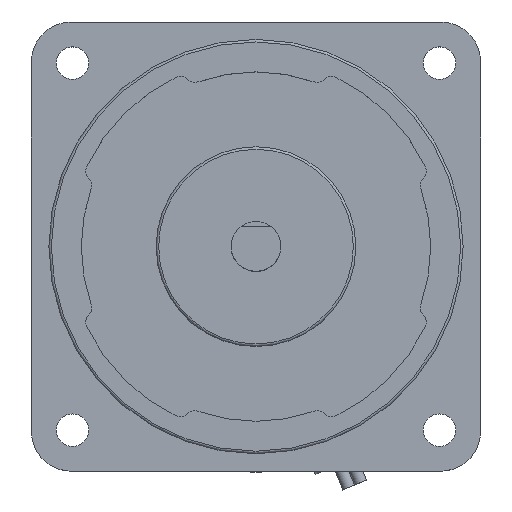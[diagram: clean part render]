
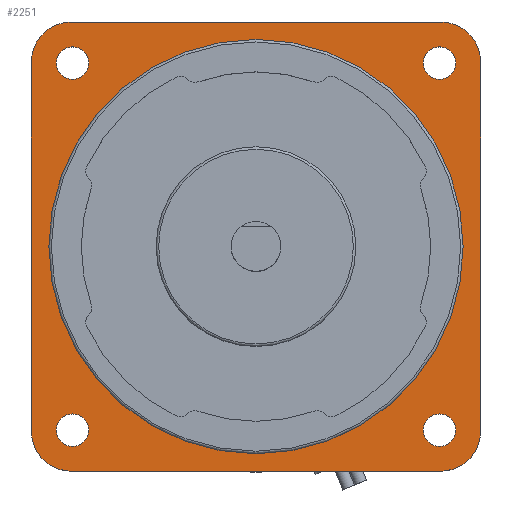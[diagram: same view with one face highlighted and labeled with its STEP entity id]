
A CAD part, top view. The second image highlights one B-rep face of the part: STEP entity #2251.
In plain terms, the highlighted planar face has unit normal (0, 0, 1).
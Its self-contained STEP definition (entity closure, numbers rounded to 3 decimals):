
#1013=CARTESIAN_POINT('',(41.5,0.,105.));
#1014=VERTEX_POINT('',#1013);
#1015=CARTESIAN_POINT('',(0.0,0.0,105.));
#1016=DIRECTION('',(0.0,0.0,-1.0));
#1017=DIRECTION('',(-1.0,0.0,0.0));
#1018=AXIS2_PLACEMENT_3D('',#1015,#1016,#1017);
#1019=CIRCLE('',#1018,41.5);
#1020=EDGE_CURVE('',#1014,#1014,#1019,.T.);
#1950=CARTESIAN_POINT('',(45.,37.0,105.));
#1951=VERTEX_POINT('',#1950);
#1952=CARTESIAN_POINT('',(45.,-37.0,105.));
#1953=VERTEX_POINT('',#1952);
#1954=CARTESIAN_POINT('',(45.,37.0,105.0));
#1955=DIRECTION('',(0.0,-1.0,0.0));
#1956=VECTOR('',#1955,74.0);
#1957=LINE('',#1954,#1956);
#1958=EDGE_CURVE('',#1951,#1953,#1957,.T.);
#1981=CARTESIAN_POINT('',(37.,-45.0,105.));
#1982=VERTEX_POINT('',#1981);
#1983=CARTESIAN_POINT('',(37.,-37.0,105.0));
#1984=DIRECTION('',(0.0,0.0,-1.0));
#1985=DIRECTION('',(0.0,1.0,0.0));
#1986=AXIS2_PLACEMENT_3D('',#1983,#1984,#1985);
#1987=CIRCLE('',#1986,8.);
#1988=EDGE_CURVE('',#1953,#1982,#1987,.T.);
#2006=CARTESIAN_POINT('',(-37.,-45.0,105.));
#2007=VERTEX_POINT('',#2006);
#2008=CARTESIAN_POINT('',(37.,-45.0,105.0));
#2009=DIRECTION('',(-1.0,0.0,0.0));
#2010=VECTOR('',#2009,74.);
#2011=LINE('',#2008,#2010);
#2012=EDGE_CURVE('',#1982,#2007,#2011,.T.);
#2030=CARTESIAN_POINT('',(-45.,-37.0,105.));
#2031=VERTEX_POINT('',#2030);
#2032=CARTESIAN_POINT('',(-37.,-37.0,105.0));
#2033=DIRECTION('',(0.0,0.0,-1.0));
#2034=DIRECTION('',(1.0,0.0,0.0));
#2035=AXIS2_PLACEMENT_3D('',#2032,#2033,#2034);
#2036=CIRCLE('',#2035,8.);
#2037=EDGE_CURVE('',#2007,#2031,#2036,.T.);
#2055=CARTESIAN_POINT('',(-45.,37.0,105.));
#2056=VERTEX_POINT('',#2055);
#2057=CARTESIAN_POINT('',(-45.,-37.0,105.0));
#2058=DIRECTION('',(0.0,1.0,0.0));
#2059=VECTOR('',#2058,74.0);
#2060=LINE('',#2057,#2059);
#2061=EDGE_CURVE('',#2031,#2056,#2060,.T.);
#2079=CARTESIAN_POINT('',(-37.,45.0,105.));
#2080=VERTEX_POINT('',#2079);
#2081=CARTESIAN_POINT('',(-37.,37.0,105.0));
#2082=DIRECTION('',(0.0,0.0,-1.0));
#2083=DIRECTION('',(0.0,-1.0,0.0));
#2084=AXIS2_PLACEMENT_3D('',#2081,#2082,#2083);
#2085=CIRCLE('',#2084,8.);
#2086=EDGE_CURVE('',#2056,#2080,#2085,.T.);
#2106=CARTESIAN_POINT('',(37.,45.0,105.));
#2107=VERTEX_POINT('',#2106);
#2108=CARTESIAN_POINT('',(-37.,45.0,105.0));
#2109=DIRECTION('',(1.0,0.0,0.0));
#2110=VECTOR('',#2109,74.);
#2111=LINE('',#2108,#2110);
#2112=EDGE_CURVE('',#2080,#2107,#2111,.T.);
#2128=CARTESIAN_POINT('',(37.,37.0,105.0));
#2129=DIRECTION('',(0.0,0.0,-1.0));
#2130=DIRECTION('',(-1.0,0.0,0.0));
#2131=AXIS2_PLACEMENT_3D('',#2128,#2129,#2130);
#2132=CIRCLE('',#2131,8.);
#2133=EDGE_CURVE('',#2107,#1951,#2132,.T.);
#2149=CARTESIAN_POINT('',(40.02,36.77,105.));
#2150=VERTEX_POINT('',#2149);
#2151=CARTESIAN_POINT('',(36.77,36.77,105.));
#2152=DIRECTION('',(0.0,0.0,-1.0));
#2153=DIRECTION('',(-1.0,0.0,0.0));
#2154=AXIS2_PLACEMENT_3D('',#2151,#2152,#2153);
#2155=CIRCLE('',#2154,3.25);
#2156=EDGE_CURVE('',#2150,#2150,#2155,.T.);
#2169=CARTESIAN_POINT('',(40.02,-36.77,105.));
#2170=VERTEX_POINT('',#2169);
#2171=CARTESIAN_POINT('',(36.77,-36.77,105.));
#2172=DIRECTION('',(0.0,0.0,-1.0));
#2173=DIRECTION('',(-1.0,0.0,0.0));
#2174=AXIS2_PLACEMENT_3D('',#2171,#2172,#2173);
#2175=CIRCLE('',#2174,3.25);
#2176=EDGE_CURVE('',#2170,#2170,#2175,.T.);
#2189=CARTESIAN_POINT('',(-33.52,-36.77,105.));
#2190=VERTEX_POINT('',#2189);
#2191=CARTESIAN_POINT('',(-36.77,-36.77,105.));
#2192=DIRECTION('',(0.0,0.0,-1.0));
#2193=DIRECTION('',(-1.0,0.0,0.0));
#2194=AXIS2_PLACEMENT_3D('',#2191,#2192,#2193);
#2195=CIRCLE('',#2194,3.25);
#2196=EDGE_CURVE('',#2190,#2190,#2195,.T.);
#2209=CARTESIAN_POINT('',(-33.52,36.77,105.));
#2210=VERTEX_POINT('',#2209);
#2211=CARTESIAN_POINT('',(-36.77,36.77,105.));
#2212=DIRECTION('',(0.0,0.0,-1.0));
#2213=DIRECTION('',(-1.0,0.0,0.0));
#2214=AXIS2_PLACEMENT_3D('',#2211,#2212,#2213);
#2215=CIRCLE('',#2214,3.25);
#2216=EDGE_CURVE('',#2210,#2210,#2215,.T.);
#2221=CARTESIAN_POINT('',(0.,0.,105.));
#2222=DIRECTION('',(0.0,0.0,1.0));
#2223=DIRECTION('',(1.0,0.0,0.0));
#2224=AXIS2_PLACEMENT_3D('',#2221,#2222,#2223);
#2225=PLANE('',#2224);
#2226=ORIENTED_EDGE('',*,*,#2133,.F.);
#2227=ORIENTED_EDGE('',*,*,#2112,.F.);
#2228=ORIENTED_EDGE('',*,*,#2086,.F.);
#2229=ORIENTED_EDGE('',*,*,#2061,.F.);
#2230=ORIENTED_EDGE('',*,*,#2037,.F.);
#2231=ORIENTED_EDGE('',*,*,#2012,.F.);
#2232=ORIENTED_EDGE('',*,*,#1988,.F.);
#2233=ORIENTED_EDGE('',*,*,#1958,.F.);
#2234=EDGE_LOOP('',(#2226,#2227,#2228,#2229,#2230,#2231,#2232,#2233));
#2235=FACE_OUTER_BOUND('',#2234,.T.);
#2236=ORIENTED_EDGE('',*,*,#2216,.T.);
#2237=EDGE_LOOP('',(#2236));
#2238=FACE_BOUND('',#2237,.T.);
#2239=ORIENTED_EDGE('',*,*,#2196,.T.);
#2240=EDGE_LOOP('',(#2239));
#2241=FACE_BOUND('',#2240,.T.);
#2242=ORIENTED_EDGE('',*,*,#2176,.T.);
#2243=EDGE_LOOP('',(#2242));
#2244=FACE_BOUND('',#2243,.T.);
#2245=ORIENTED_EDGE('',*,*,#2156,.T.);
#2246=EDGE_LOOP('',(#2245));
#2247=FACE_BOUND('',#2246,.T.);
#2248=ORIENTED_EDGE('',*,*,#1020,.T.);
#2249=EDGE_LOOP('',(#2248));
#2250=FACE_BOUND('',#2249,.T.);
#2251=ADVANCED_FACE('',(#2235,#2238,#2241,#2244,#2247,#2250),#2225,.T.);
